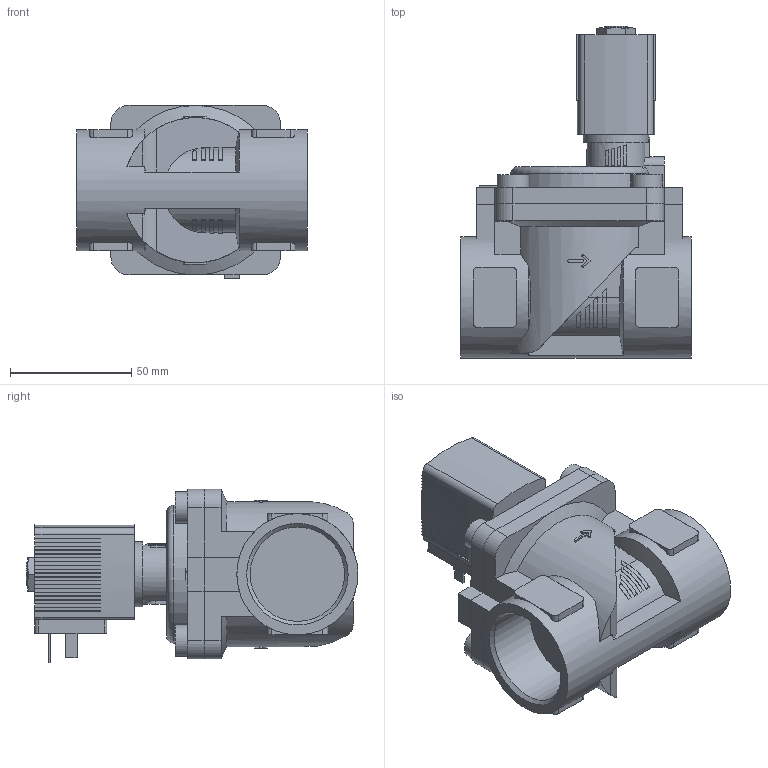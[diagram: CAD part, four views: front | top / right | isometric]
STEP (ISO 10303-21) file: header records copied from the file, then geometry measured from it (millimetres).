
FILE_DESCRIPTION(/* description */ ('STEP AP214'),/* implementation_level */ '2;1');
FILE_NAME(/* name */ '6281-274729-2_2-Way_Solenoid_Valve__Servo-assisted__General_Purpose',/* time_stamp */ '2024-08-27T14:28:50+02:00',/* author */ ('License CC BY-ND 4.0'),/* organization */ ('CADENAS'),/* preprocessor_version */ 'ST-DEVELOPER v19.3',/* originating_system */ 'PARTsolutions',/* authorisation */ ' ');
FILE_SCHEMA (('AUTOMOTIVE_DESIGN {1 0 10303 214 3 1 1}'));
Length unit declared in the file: millimetre
Products named in the file (4): 6281-274729-2/2-Way Solenoid Valve, Servo-assisted, General Purpose; 5281ev250VA2/2-Wege-Magnetventil mit Servomembran-Deckel   ; 6213-25G1_1/4VA-Gehaeuse-; AC10ex-5OO-Plan-Coil
Assembly tree (3 placements, depth 2):
  6281-274729-2/2-Way Solenoid Valve, Servo-assisted, General Purpose
    5281ev250VA2/2-Wege-Magnetventil mit Servomembran-Deckel   
    6213-25G1_1/4VA-Gehaeuse-
    AC10ex-5OO-Plan-Coil
Bounding box: 95 x 137 x 71.5 mm (x, y, z)
Volume: 324784.2 mm3; surface area: 61006.9 mm2
Topology: 3 solids, 3 shells, 543 faces, 1506 edges, 998 vertices
Faces by surface type: plane 441, cylinder 84, cone 17, torus 1
Full cylindrical faces by diameter (mm): 2.013 x1, 9.74 x1, 13 x4, 27 x1, 38.952 x2, 50 x1
Entity records: 19922 total; most frequent: CARTESIAN_POINT 3290, ORIENTED_EDGE 2964, DIRECTION 2820, EDGE_CURVE 1482, LINE 1096, VECTOR 1096, VERTEX_POINT 990, AXIS2_PLACEMENT_3D 862
